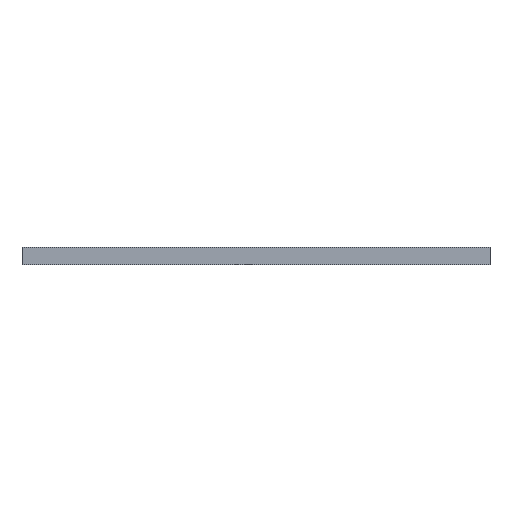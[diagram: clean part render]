
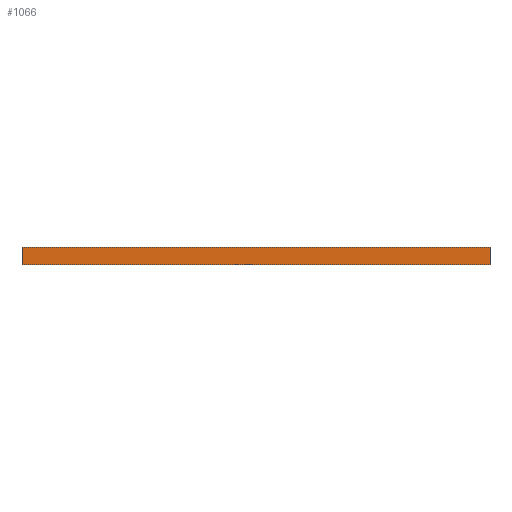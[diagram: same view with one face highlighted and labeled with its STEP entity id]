
A CAD part, left-side view. The second image highlights one B-rep face of the part: STEP entity #1066.
In plain terms, the highlighted planar face has unit normal (-1, 0, 0).
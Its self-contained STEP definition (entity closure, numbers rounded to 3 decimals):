
#583 = EDGE_CURVE ( 'NONE', #1136, #1137, #2165, .T. ) ;
#1007 = ORIENTED_EDGE ( 'NONE', *, *, #583, .F. ) ;
#1008 = ORIENTED_EDGE ( 'NONE', *, *, #1009, .T. ) ;
#1009 = EDGE_CURVE ( 'NONE', #1136, #1029, #2824, .T. ) ;
#1025 = EDGE_CURVE ( 'NONE', #1029, #1044, #2735, .T. ) ;
#1029 = VERTEX_POINT ( 'NONE', #2726 ) ;
#1035 = EDGE_CURVE ( 'NONE', #1137, #1044, #2716, .T. ) ;
#1044 = VERTEX_POINT ( 'NONE', #2712 ) ;
#1045 = ORIENTED_EDGE ( 'NONE', *, *, #1025, .T. ) ;
#1046 = ORIENTED_EDGE ( 'NONE', *, *, #1035, .F. ) ;
#1066 = ADVANCED_FACE ( 'NONE', ( #2932 ), #2931, .F. ) ;
#1067 = EDGE_LOOP ( 'NONE', ( #1045, #1046, #1007, #1008 ) ) ;
#1136 = VERTEX_POINT ( 'NONE', #2866 ) ;
#1137 = VERTEX_POINT ( 'NONE', #2865 ) ;
#2162 = DIRECTION ( 'NONE',  ( 0., -1., 0. ) ) ;
#2163 = VECTOR ( 'NONE', #2162, 1000. ) ;
#2164 = CARTESIAN_POINT ( 'NONE',  ( -105., 107.5, 8. ) ) ;
#2165 = LINE ( 'NONE', #2164, #2163 ) ;
#2712 = CARTESIAN_POINT ( 'NONE',  ( -105., -107.5, 0. ) ) ;
#2713 = DIRECTION ( 'NONE',  ( 0., 0., -1. ) ) ;
#2714 = VECTOR ( 'NONE', #2713, 1000. ) ;
#2715 = CARTESIAN_POINT ( 'NONE',  ( -105., -107.5, 8. ) ) ;
#2716 = LINE ( 'NONE', #2715, #2714 ) ;
#2726 = CARTESIAN_POINT ( 'NONE',  ( -105., 107.5, 0. ) ) ;
#2732 = DIRECTION ( 'NONE',  ( 0., -1., 0. ) ) ;
#2733 = VECTOR ( 'NONE', #2732, 1000. ) ;
#2734 = CARTESIAN_POINT ( 'NONE',  ( -105., 107.5, 0. ) ) ;
#2735 = LINE ( 'NONE', #2734, #2733 ) ;
#2821 = DIRECTION ( 'NONE',  ( 0., 0., -1. ) ) ;
#2822 = VECTOR ( 'NONE', #2821, 1000. ) ;
#2823 = CARTESIAN_POINT ( 'NONE',  ( -105., 107.5, 8. ) ) ;
#2824 = LINE ( 'NONE', #2823, #2822 ) ;
#2865 = CARTESIAN_POINT ( 'NONE',  ( -105., -107.5, 8. ) ) ;
#2866 = CARTESIAN_POINT ( 'NONE',  ( -105., 107.5, 8. ) ) ;
#2927 = DIRECTION ( 'NONE',  ( 0., 0., -1. ) ) ;
#2928 = DIRECTION ( 'NONE',  ( 1., 0., 0. ) ) ;
#2929 = CARTESIAN_POINT ( 'NONE',  ( -105., 107.5, 8. ) ) ;
#2930 = AXIS2_PLACEMENT_3D ( 'NONE', #2929, #2928, #2927 ) ;
#2931 = PLANE ( 'NONE',  #2930 ) ;
#2932 = FACE_OUTER_BOUND ( 'NONE', #1067, .T. ) ;
